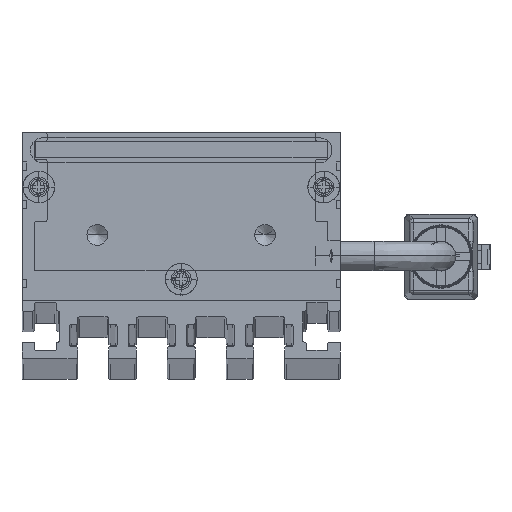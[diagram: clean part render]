
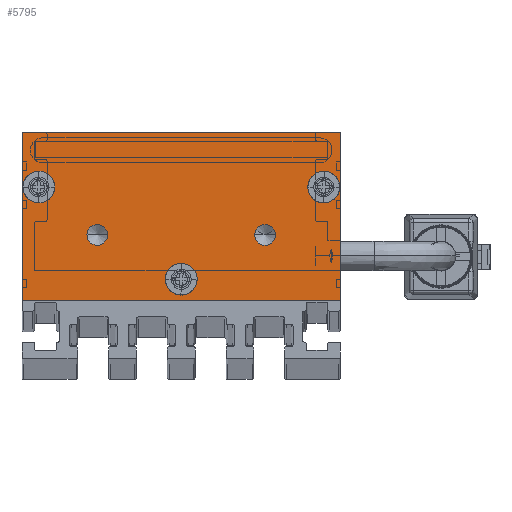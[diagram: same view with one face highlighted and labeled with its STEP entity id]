
A CAD part, top view. The second image highlights one B-rep face of the part: STEP entity #5795.
In plain terms, the highlighted planar face has unit normal (0, 0, 1) as drawn and (0, 0, -1) by its records, which use the part's own axes.
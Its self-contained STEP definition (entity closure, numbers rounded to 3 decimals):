
#1 = CARTESIAN_POINT ( 'NONE',  ( 17., 13.5, -2.5 ) ) ;
#53 = ORIENTED_EDGE ( 'NONE', *, *, #10962, .F. ) ;
#131 = DIRECTION ( 'NONE',  ( 0., 0., -1. ) ) ;
#292 = ORIENTED_EDGE ( 'NONE', *, *, #1531, .F. ) ;
#300 = AXIS2_PLACEMENT_3D ( 'NONE', #11741, #6534, #6776 ) ;
#615 = EDGE_CURVE ( 'NONE', #13333, #12373, #14401, .T. ) ;
#1008 = ORIENTED_EDGE ( 'NONE', *, *, #2591, .F. ) ;
#1454 = ORIENTED_EDGE ( 'NONE', *, *, #2733, .F. ) ;
#1531 = EDGE_CURVE ( 'NONE', #11492, #10885, #2783, .T. ) ;
#1790 = DIRECTION ( 'NONE',  ( 0., 0., -1. ) ) ;
#1877 = DIRECTION ( 'NONE',  ( 0., 0., -1. ) ) ;
#1986 = VERTEX_POINT ( 'NONE', #3381 ) ;
#2012 = CIRCLE ( 'NONE', #15267, 1.25 ) ;
#2034 = DIRECTION ( 'NONE',  ( 0., 0., -1. ) ) ;
#2125 = ORIENTED_EDGE ( 'NONE', *, *, #11592, .F. ) ;
#2134 = CIRCLE ( 'NONE', #11430, 1.25 ) ;
#2370 = CARTESIAN_POINT ( 'NONE',  ( -19., 0., -2.5 ) ) ;
#2591 = EDGE_CURVE ( 'NONE', #10885, #11492, #16322, .T. ) ;
#2685 = LINE ( 'NONE', #7757, #6540 ) ;
#2714 = VERTEX_POINT ( 'NONE', #2370 ) ;
#2733 = EDGE_CURVE ( 'NONE', #11819, #15479, #2012, .T. ) ;
#2783 = CIRCLE ( 'NONE', #7286, 1.9 ) ;
#3091 = DIRECTION ( 'NONE',  ( -1., 0., 0. ) ) ;
#3231 = EDGE_CURVE ( 'NONE', #16031, #11820, #2685, .T. ) ;
#3381 = CARTESIAN_POINT ( 'NONE',  ( -1.9, 2.5, -2.5 ) ) ;
#3390 = VERTEX_POINT ( 'NONE', #16085 ) ;
#3492 = CARTESIAN_POINT ( 'NONE',  ( 0., 0., -2.5 ) ) ;
#3547 = AXIS2_PLACEMENT_3D ( 'NONE', #1, #5070, #10142 ) ;
#3586 = FACE_OUTER_BOUND ( 'NONE', #16148, .T. ) ;
#3783 = ORIENTED_EDGE ( 'NONE', *, *, #8701, .F. ) ;
#4018 = ORIENTED_EDGE ( 'NONE', *, *, #615, .F. ) ;
#4103 = CARTESIAN_POINT ( 'NONE',  ( 10., 7.8, -2.5 ) ) ;
#4130 = DIRECTION ( 'NONE',  ( -1., 0., 0. ) ) ;
#4288 = CARTESIAN_POINT ( 'NONE',  ( 0., 2.5, -2.5 ) ) ;
#4525 = DIRECTION ( 'NONE',  ( 0., -1., 0. ) ) ;
#4703 = CARTESIAN_POINT ( 'NONE',  ( 19., 20., -2.5 ) ) ;
#4734 = FACE_BOUND ( 'NONE', #10832, .T. ) ;
#4804 = CIRCLE ( 'NONE', #6931, 1.9 ) ;
#4948 = DIRECTION ( 'NONE',  ( 0., 1., 0. ) ) ;
#5070 = DIRECTION ( 'NONE',  ( 0., 0., -1. ) ) ;
#5128 = VERTEX_POINT ( 'NONE', #9418 ) ;
#5583 = VERTEX_POINT ( 'NONE', #14205 ) ;
#5597 = DIRECTION ( 'NONE',  ( -1., 0., 0. ) ) ;
#5795 = ADVANCED_FACE ( 'NONE', ( #11037, #14950, #16107, #4734, #12452, #3586 ), #9801, .F. ) ;
#6156 = DIRECTION ( 'NONE',  ( 1., 0., 0. ) ) ;
#6281 = CARTESIAN_POINT ( 'NONE',  ( -10., 7.8, -2.5 ) ) ;
#6335 = DIRECTION ( 'NONE',  ( 1., 0., 0. ) ) ;
#6367 = EDGE_CURVE ( 'NONE', #3390, #16031, #7542, .T. ) ;
#6515 = ORIENTED_EDGE ( 'NONE', *, *, #3231, .F. ) ;
#6534 = DIRECTION ( 'NONE',  ( 0., 0., -1. ) ) ;
#6540 = VECTOR ( 'NONE', #16213, 1000. ) ;
#6600 = CARTESIAN_POINT ( 'NONE',  ( -8.75, 7.8, -2.5 ) ) ;
#6712 = CARTESIAN_POINT ( 'NONE',  ( -18.9, 13.5, -2.5 ) ) ;
#6776 = DIRECTION ( 'NONE',  ( -1., 0., 0. ) ) ;
#6866 = CARTESIAN_POINT ( 'NONE',  ( 17., 13.5, -2.5 ) ) ;
#6931 = AXIS2_PLACEMENT_3D ( 'NONE', #11988, #10402, #3091 ) ;
#7286 = AXIS2_PLACEMENT_3D ( 'NONE', #10813, #11980, #5597 ) ;
#7461 = CARTESIAN_POINT ( 'NONE',  ( 10., 7.8, -2.5 ) ) ;
#7542 = LINE ( 'NONE', #8784, #9013 ) ;
#7629 = DIRECTION ( 'NONE',  ( 0., 0., -1. ) ) ;
#7757 = CARTESIAN_POINT ( 'NONE',  ( -19., 20., -2.5 ) ) ;
#8084 = EDGE_LOOP ( 'NONE', ( #14527, #4018 ) ) ;
#8271 = EDGE_CURVE ( 'NONE', #5583, #1986, #15128, .T. ) ;
#8627 = EDGE_CURVE ( 'NONE', #15479, #11819, #10630, .T. ) ;
#8654 = ORIENTED_EDGE ( 'NONE', *, *, #8271, .F. ) ;
#8701 = EDGE_CURVE ( 'NONE', #1986, #5583, #4804, .T. ) ;
#8729 = ORIENTED_EDGE ( 'NONE', *, *, #10691, .F. ) ;
#8784 = CARTESIAN_POINT ( 'NONE',  ( 19., 20., -2.5 ) ) ;
#8941 = ORIENTED_EDGE ( 'NONE', *, *, #6367, .F. ) ;
#9013 = VECTOR ( 'NONE', #4948, 1000. ) ;
#9200 = CARTESIAN_POINT ( 'NONE',  ( 11.25, 7.8, -2.5 ) ) ;
#9327 = CIRCLE ( 'NONE', #15148, 1.25 ) ;
#9387 = LINE ( 'NONE', #10244, #9861 ) ;
#9418 = CARTESIAN_POINT ( 'NONE',  ( 8.75, 7.8, -2.5 ) ) ;
#9454 = ORIENTED_EDGE ( 'NONE', *, *, #14899, .F. ) ;
#9563 = CARTESIAN_POINT ( 'NONE',  ( 15.1, 13.5, -2.5 ) ) ;
#9801 = PLANE ( 'NONE',  #11995 ) ;
#9861 = VECTOR ( 'NONE', #6335, 1000. ) ;
#9890 = DIRECTION ( 'NONE',  ( 0., 0., 1. ) ) ;
#9931 = DIRECTION ( 'NONE',  ( -1., 0., 0. ) ) ;
#10142 = DIRECTION ( 'NONE',  ( -1., 0., 0. ) ) ;
#10244 = CARTESIAN_POINT ( 'NONE',  ( -19., 0., -2.5 ) ) ;
#10372 = AXIS2_PLACEMENT_3D ( 'NONE', #4288, #1877, #4130 ) ;
#10402 = DIRECTION ( 'NONE',  ( 0., 0., -1. ) ) ;
#10630 = CIRCLE ( 'NONE', #300, 1.25 ) ;
#10691 = EDGE_CURVE ( 'NONE', #14994, #5128, #9327, .T. ) ;
#10813 = CARTESIAN_POINT ( 'NONE',  ( -17., 13.5, -2.5 ) ) ;
#10832 = EDGE_LOOP ( 'NONE', ( #9454, #8729 ) ) ;
#10833 = LINE ( 'NONE', #15896, #16242 ) ;
#10885 = VERTEX_POINT ( 'NONE', #16303 ) ;
#10962 = EDGE_CURVE ( 'NONE', #2714, #3390, #9387, .T. ) ;
#11037 = FACE_BOUND ( 'NONE', #8084, .T. ) ;
#11279 = AXIS2_PLACEMENT_3D ( 'NONE', #13407, #2034, #9931 ) ;
#11332 = DIRECTION ( 'NONE',  ( -1., 0., 0. ) ) ;
#11430 = AXIS2_PLACEMENT_3D ( 'NONE', #7461, #7629, #12839 ) ;
#11454 = EDGE_LOOP ( 'NONE', ( #14033, #1454 ) ) ;
#11492 = VERTEX_POINT ( 'NONE', #6712 ) ;
#11592 = EDGE_CURVE ( 'NONE', #11820, #2714, #10833, .T. ) ;
#11602 = EDGE_CURVE ( 'NONE', #12373, #13333, #13324, .T. ) ;
#11741 = CARTESIAN_POINT ( 'NONE',  ( -10., 7.8, -2.5 ) ) ;
#11819 = VERTEX_POINT ( 'NONE', #6600 ) ;
#11820 = VERTEX_POINT ( 'NONE', #15397 ) ;
#11980 = DIRECTION ( 'NONE',  ( 0., 0., -1. ) ) ;
#11988 = CARTESIAN_POINT ( 'NONE',  ( 0., 2.5, -2.5 ) ) ;
#11995 = AXIS2_PLACEMENT_3D ( 'NONE', #3492, #9890, #6156 ) ;
#12373 = VERTEX_POINT ( 'NONE', #9563 ) ;
#12452 = FACE_BOUND ( 'NONE', #11454, .T. ) ;
#12662 = DIRECTION ( 'NONE',  ( -1., 0., 0. ) ) ;
#12839 = DIRECTION ( 'NONE',  ( -1., 0., 0. ) ) ;
#12979 = DIRECTION ( 'NONE',  ( 0., 0., -1. ) ) ;
#13324 = CIRCLE ( 'NONE', #15175, 1.9 ) ;
#13333 = VERTEX_POINT ( 'NONE', #14417 ) ;
#13407 = CARTESIAN_POINT ( 'NONE',  ( -17., 13.5, -2.5 ) ) ;
#14033 = ORIENTED_EDGE ( 'NONE', *, *, #8627, .F. ) ;
#14205 = CARTESIAN_POINT ( 'NONE',  ( 1.9, 2.5, -2.5 ) ) ;
#14219 = CARTESIAN_POINT ( 'NONE',  ( -11.25, 7.8, -2.5 ) ) ;
#14401 = CIRCLE ( 'NONE', #3547, 1.9 ) ;
#14417 = CARTESIAN_POINT ( 'NONE',  ( 18.9, 13.5, -2.5 ) ) ;
#14527 = ORIENTED_EDGE ( 'NONE', *, *, #11602, .F. ) ;
#14899 = EDGE_CURVE ( 'NONE', #5128, #14994, #2134, .T. ) ;
#14950 = FACE_BOUND ( 'NONE', #16295, .T. ) ;
#14994 = VERTEX_POINT ( 'NONE', #9200 ) ;
#15128 = CIRCLE ( 'NONE', #10372, 1.9 ) ;
#15148 = AXIS2_PLACEMENT_3D ( 'NONE', #4103, #12979, #12662 ) ;
#15175 = AXIS2_PLACEMENT_3D ( 'NONE', #6866, #1790, #15738 ) ;
#15267 = AXIS2_PLACEMENT_3D ( 'NONE', #6281, #131, #11332 ) ;
#15397 = CARTESIAN_POINT ( 'NONE',  ( -19., 20., -2.5 ) ) ;
#15479 = VERTEX_POINT ( 'NONE', #14219 ) ;
#15738 = DIRECTION ( 'NONE',  ( -1., 0., 0. ) ) ;
#15896 = CARTESIAN_POINT ( 'NONE',  ( -19., 20., -2.5 ) ) ;
#15901 = EDGE_LOOP ( 'NONE', ( #292, #1008 ) ) ;
#16031 = VERTEX_POINT ( 'NONE', #4703 ) ;
#16085 = CARTESIAN_POINT ( 'NONE',  ( 19., 0., -2.5 ) ) ;
#16107 = FACE_BOUND ( 'NONE', #15901, .T. ) ;
#16148 = EDGE_LOOP ( 'NONE', ( #2125, #6515, #8941, #53 ) ) ;
#16213 = DIRECTION ( 'NONE',  ( -1., 0., 0. ) ) ;
#16242 = VECTOR ( 'NONE', #4525, 1000. ) ;
#16295 = EDGE_LOOP ( 'NONE', ( #3783, #8654 ) ) ;
#16303 = CARTESIAN_POINT ( 'NONE',  ( -15.1, 13.5, -2.5 ) ) ;
#16322 = CIRCLE ( 'NONE', #11279, 1.9 ) ;
